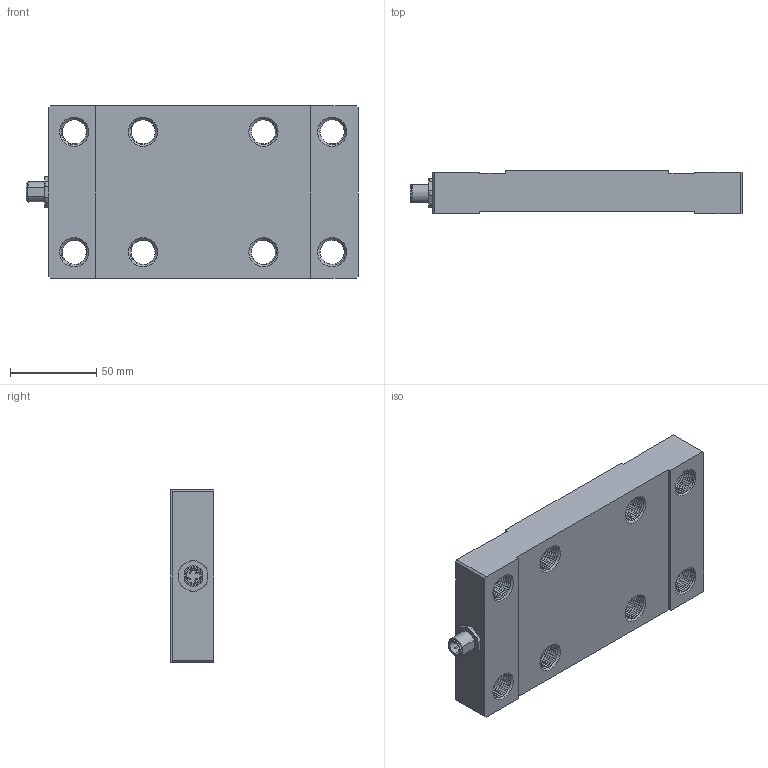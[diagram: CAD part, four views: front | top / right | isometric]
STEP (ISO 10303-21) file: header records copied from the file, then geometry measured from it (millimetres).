
FILE_DESCRIPTION (( 'STEP AP214' ), '1' );
FILE_NAME ('Soemer-KLA3-100kN.STEP', '2023-09-26T08:31:47', ( '' ), ( '' ), 'SwSTEP 2.0', 'SolidWorks 2019', '' );
FILE_SCHEMA (( 'AUTOMOTIVE_DESIGN' ));
Length unit declared in the file: millimetre
Products named in the file (8): 86_0131_0002_00004_01; Soemer-KLA3-100kN; KLA3-100kN Grundkörper; 86_0131_0002_00004_02; M12 Flanschstecker
Assembly tree (4 placements, depth 3):
  86_0131_0002_00004_01
  Soemer-KLA3-100kN
    KLA3-100kN Grundkörper
    M12 Flanschstecker
      86_0131_0002_00004_01
      86_0131_0002_00004_02
  KLA3-100kN Grundkörper
  86_0131_0002_00004_02
Bounding box: 193.02 x 25.4 x 100 mm (x, y, z)
Volume: 397234.2 mm3; surface area: 63085.3 mm2
Topology: 3 solids, 8 shells, 524 faces, 1476 edges, 964 vertices
Faces by surface type: cylinder 309, plane 93, cone 66, bspline 40, sphere 8, torus 8
Entity records: 43887 total; most frequent: CARTESIAN_POINT 29008, ORIENTED_EDGE 2904, DIRECTION 1981, EDGE_CURVE 1452, VERTEX_POINT 956, AXIS2_PLACEMENT_3D 707, VECTOR 567, LINE 567
